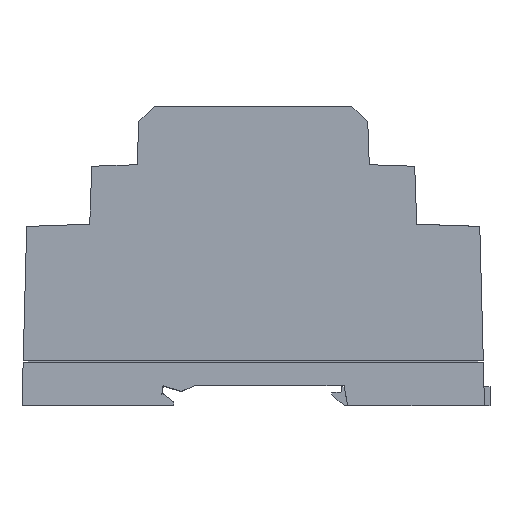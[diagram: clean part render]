
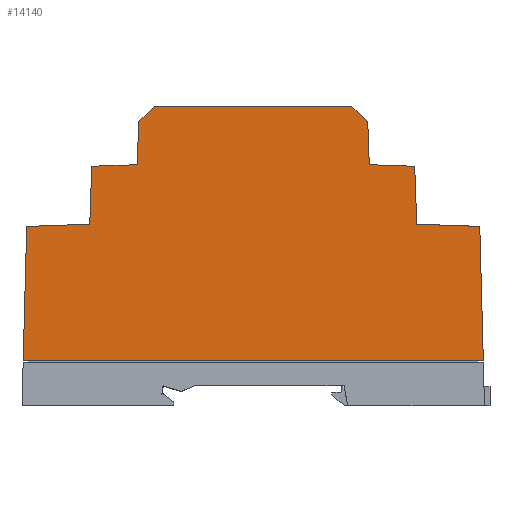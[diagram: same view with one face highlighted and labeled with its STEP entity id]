
A CAD part, left-side view. The second image highlights one B-rep face of the part: STEP entity #14140.
In plain terms, the highlighted planar face has unit normal (-1, 0, 0.009).
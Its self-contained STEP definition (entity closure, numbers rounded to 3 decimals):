
#21 = VERTEX_POINT ( 'NONE', #14286 ) ;
#121 = VECTOR ( 'NONE', #2416, 1000. ) ;
#201 = ORIENTED_EDGE ( 'NONE', *, *, #866, .T. ) ;
#279 = FACE_OUTER_BOUND ( 'NONE', #12604, .T. ) ;
#379 = VERTEX_POINT ( 'NONE', #8389 ) ;
#467 = DIRECTION ( 'NONE',  ( -0.006, 0.719, -0.695 ) ) ;
#507 = VERTEX_POINT ( 'NONE', #9181 ) ;
#579 = VERTEX_POINT ( 'NONE', #14105 ) ;
#625 = CARTESIAN_POINT ( 'NONE',  ( 0.456, 90.18, 34.93 ) ) ;
#844 = VECTOR ( 'NONE', #467, 1000. ) ;
#866 = EDGE_CURVE ( 'NONE', #5092, #579, #7174, .T. ) ;
#944 = CARTESIAN_POINT ( 'NONE',  ( 0.558, 14.656, 46.638 ) ) ;
#1213 = DIRECTION ( 'NONE',  ( -0.009, 0.026, -1. ) ) ;
#1346 = DIRECTION ( 'NONE',  ( 0.009, 0.026, 1. ) ) ;
#1969 = LINE ( 'NONE', #7783, #12698 ) ;
#2100 = VECTOR ( 'NONE', #2338, 1000. ) ;
#2269 = EDGE_CURVE ( 'NONE', #21, #507, #5875, .T. ) ;
#2338 = DIRECTION ( 'NONE',  ( 0., 0.999, -0.035 ) ) ;
#2416 = DIRECTION ( 'NONE',  ( -0.009, 0.035, -0.999 ) ) ;
#2550 = CARTESIAN_POINT ( 'NONE',  ( 0.228, 90.865, 8.75 ) ) ;
#2563 = LINE ( 'NONE', #7241, #2100 ) ;
#2615 = VERTEX_POINT ( 'NONE', #625 ) ;
#2923 = DIRECTION ( 'NONE',  ( 0.009, 0.035, 0.999 ) ) ;
#2929 = CARTESIAN_POINT ( 'NONE',  ( 0.661, 65.271, 58.35 ) ) ;
#2950 = LINE ( 'NONE', #10924, #844 ) ;
#3207 = EDGE_CURVE ( 'NONE', #2615, #5092, #4522, .T. ) ;
#3228 = ORIENTED_EDGE ( 'NONE', *, *, #13852, .T. ) ;
#3460 = CARTESIAN_POINT ( 'NONE',  ( 0.558, 14.625, 46.637 ) ) ;
#3657 = VECTOR ( 'NONE', #10182, 1000. ) ;
#3827 = VERTEX_POINT ( 'NONE', #944 ) ;
#3872 = DIRECTION ( 'NONE',  ( 0., 0.999, -0.035 ) ) ;
#3966 = CARTESIAN_POINT ( 'NONE',  ( 0.561, 23.502, 46.947 ) ) ;
#4124 = CARTESIAN_POINT ( 'NONE',  ( 0.228, 90.865, 8.75 ) ) ;
#4352 = VERTEX_POINT ( 'NONE', #11274 ) ;
#4374 = ORIENTED_EDGE ( 'NONE', *, *, #7371, .T. ) ;
#4398 = CARTESIAN_POINT ( 'NONE',  ( 0.635, 23.795, 55.352 ) ) ;
#4522 = LINE ( 'NONE', #4600, #6161 ) ;
#4600 = CARTESIAN_POINT ( 'NONE',  ( 0.449, 90.203, 34.041 ) ) ;
#4738 = LINE ( 'NONE', #11801, #13035 ) ;
#4743 = EDGE_CURVE ( 'NONE', #7700, #4352, #2950, .T. ) ;
#5014 = VERTEX_POINT ( 'NONE', #12878 ) ;
#5092 = VERTEX_POINT ( 'NONE', #4124 ) ;
#5314 = VECTOR ( 'NONE', #2923, 1000. ) ;
#5330 = CARTESIAN_POINT ( 'NONE',  ( 0.553, 23.471, 46.057 ) ) ;
#5411 = LINE ( 'NONE', #2929, #14706 ) ;
#5542 = VECTOR ( 'NONE', #9018, 1000. ) ;
#5678 = EDGE_CURVE ( 'NONE', #507, #2615, #8395, .T. ) ;
#5875 = LINE ( 'NONE', #7243, #121 ) ;
#5882 = DIRECTION ( 'NONE',  ( 0., -1., 0. ) ) ;
#6103 = CARTESIAN_POINT ( 'NONE',  ( 0.46, 14.262, 35.365 ) ) ;
#6161 = VECTOR ( 'NONE', #1213, 1000. ) ;
#6509 = EDGE_CURVE ( 'NONE', #3827, #14291, #12714, .T. ) ;
#6521 = ORIENTED_EDGE ( 'NONE', *, *, #6509, .T. ) ;
#6690 = LINE ( 'NONE', #5330, #5542 ) ;
#6718 = CARTESIAN_POINT ( 'NONE',  ( 0.661, 65.271, 58.35 ) ) ;
#6889 = VECTOR ( 'NONE', #3872, 1000. ) ;
#7088 = ORIENTED_EDGE ( 'NONE', *, *, #9347, .T. ) ;
#7174 = LINE ( 'NONE', #11895, #9250 ) ;
#7234 = LINE ( 'NONE', #12936, #12246 ) ;
#7241 = CARTESIAN_POINT ( 'NONE',  ( 0.561, 68.7, 46.946 ) ) ;
#7243 = CARTESIAN_POINT ( 'NONE',  ( 0.551, 77.546, 45.749 ) ) ;
#7371 = EDGE_CURVE ( 'NONE', #14694, #21, #2563, .T. ) ;
#7700 = VERTEX_POINT ( 'NONE', #6718 ) ;
#7728 = EDGE_CURVE ( 'NONE', #5014, #13813, #1969, .T. ) ;
#7735 = ORIENTED_EDGE ( 'NONE', *, *, #3207, .T. ) ;
#7783 = CARTESIAN_POINT ( 'NONE',  ( 0.456, 1.96, 34.935 ) ) ;
#8140 = DIRECTION ( 'NONE',  ( 0., 0.999, 0.035 ) ) ;
#8389 = CARTESIAN_POINT ( 'NONE',  ( 0.661, 26.9, 58.35 ) ) ;
#8395 = LINE ( 'NONE', #10712, #6889 ) ;
#8492 = DIRECTION ( 'NONE',  ( -0.009, 0., -1. ) ) ;
#8773 = ORIENTED_EDGE ( 'NONE', *, *, #13272, .T. ) ;
#9018 = DIRECTION ( 'NONE',  ( 0.009, 0.035, 0.999 ) ) ;
#9181 = CARTESIAN_POINT ( 'NONE',  ( 0.46, 77.909, 35.36 ) ) ;
#9250 = VECTOR ( 'NONE', #5882, 1000. ) ;
#9347 = EDGE_CURVE ( 'NONE', #13131, #379, #7234, .T. ) ;
#9433 = AXIS2_PLACEMENT_3D ( 'NONE', #2550, #12930, #8492 ) ;
#10182 = DIRECTION ( 'NONE',  ( -0.009, 0.035, -0.999 ) ) ;
#10519 = ORIENTED_EDGE ( 'NONE', *, *, #4743, .T. ) ;
#10712 = CARTESIAN_POINT ( 'NONE',  ( 0.46, 77.94, 35.359 ) ) ;
#10745 = CARTESIAN_POINT ( 'NONE',  ( 0.561, 68.669, 46.947 ) ) ;
#10749 = ORIENTED_EDGE ( 'NONE', *, *, #7728, .T. ) ;
#10809 = ORIENTED_EDGE ( 'NONE', *, *, #11181, .T. ) ;
#10924 = CARTESIAN_POINT ( 'NONE',  ( 0.657, 65.717, 57.92 ) ) ;
#11181 = EDGE_CURVE ( 'NONE', #14291, #13131, #6690, .T. ) ;
#11274 = CARTESIAN_POINT ( 'NONE',  ( 0.635, 68.376, 55.352 ) ) ;
#11801 = CARTESIAN_POINT ( 'NONE',  ( 0.22, 1.282, 7.863 ) ) ;
#11895 = CARTESIAN_POINT ( 'NONE',  ( 0.228, 90.865, 8.75 ) ) ;
#11958 = VECTOR ( 'NONE', #8140, 1000. ) ;
#12037 = CARTESIAN_POINT ( 'NONE',  ( 0.452, 14.231, 34.476 ) ) ;
#12175 = EDGE_CURVE ( 'NONE', #13813, #3827, #13237, .T. ) ;
#12189 = DIRECTION ( 'NONE',  ( 0., 1., 0. ) ) ;
#12229 = ORIENTED_EDGE ( 'NONE', *, *, #14104, .T. ) ;
#12246 = VECTOR ( 'NONE', #13158, 1000. ) ;
#12515 = CARTESIAN_POINT ( 'NONE',  ( 0.627, 68.407, 54.461 ) ) ;
#12604 = EDGE_LOOP ( 'NONE', ( #3228, #10519, #8773, #4374, #13973, #13468, #7735, #201, #12229, #10749, #13671, #6521, #10809, #7088 ) ) ;
#12668 = LINE ( 'NONE', #12515, #3657 ) ;
#12698 = VECTOR ( 'NONE', #14609, 1000. ) ;
#12714 = LINE ( 'NONE', #3460, #11958 ) ;
#12878 = CARTESIAN_POINT ( 'NONE',  ( 0.456, 1.991, 34.936 ) ) ;
#12930 = DIRECTION ( 'NONE',  ( -1., 0., 0.009 ) ) ;
#12936 = CARTESIAN_POINT ( 'NONE',  ( 0.631, 23.35, 54.922 ) ) ;
#13035 = VECTOR ( 'NONE', #1346, 1000. ) ;
#13131 = VERTEX_POINT ( 'NONE', #4398 ) ;
#13158 = DIRECTION ( 'NONE',  ( 0.006, 0.719, 0.695 ) ) ;
#13237 = LINE ( 'NONE', #12037, #5314 ) ;
#13272 = EDGE_CURVE ( 'NONE', #4352, #14694, #12668, .T. ) ;
#13468 = ORIENTED_EDGE ( 'NONE', *, *, #5678, .T. ) ;
#13671 = ORIENTED_EDGE ( 'NONE', *, *, #12175, .T. ) ;
#13813 = VERTEX_POINT ( 'NONE', #6103 ) ;
#13852 = EDGE_CURVE ( 'NONE', #379, #7700, #5411, .T. ) ;
#13910 = PLANE ( 'NONE',  #9433 ) ;
#13973 = ORIENTED_EDGE ( 'NONE', *, *, #2269, .T. ) ;
#14104 = EDGE_CURVE ( 'NONE', #579, #5014, #4738, .T. ) ;
#14105 = CARTESIAN_POINT ( 'NONE',  ( 0.228, 1.305, 8.75 ) ) ;
#14140 = ADVANCED_FACE ( 'NONE', ( #279 ), #13910, .T. ) ;
#14286 = CARTESIAN_POINT ( 'NONE',  ( 0.558, 77.515, 46.638 ) ) ;
#14291 = VERTEX_POINT ( 'NONE', #3966 ) ;
#14609 = DIRECTION ( 'NONE',  ( 0., 0.999, 0.035 ) ) ;
#14694 = VERTEX_POINT ( 'NONE', #10745 ) ;
#14706 = VECTOR ( 'NONE', #12189, 1000. ) ;
